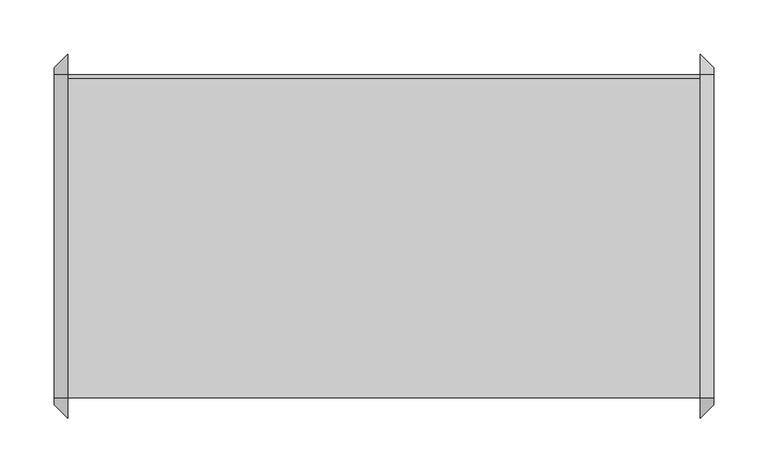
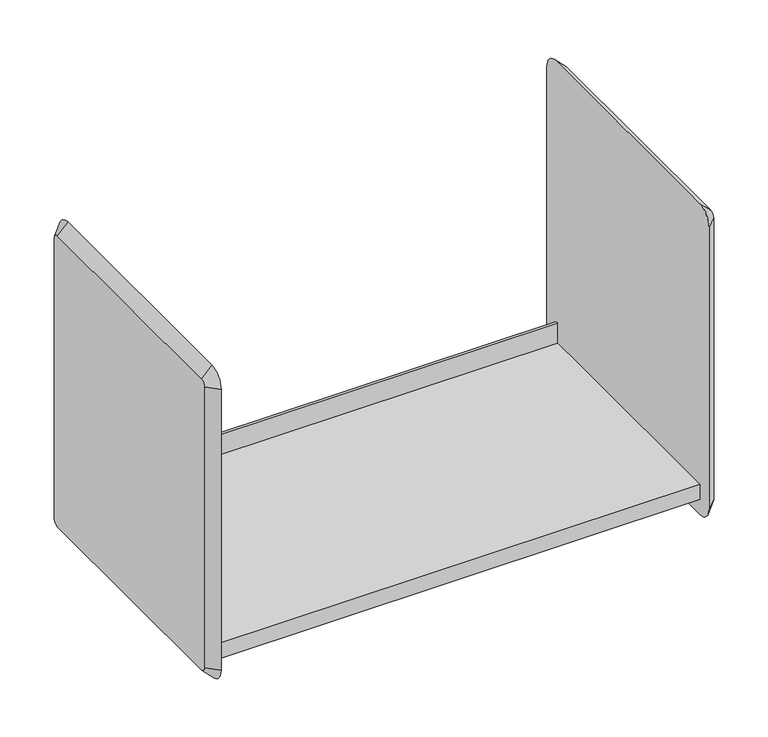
"""IFC4 building model written with IfcOpenShell, lengths in millimetres: furniture geometry, HermanMiller_CoStruc_B-StyleShelf : 15-1/2H x 13D x 24W."""

from ifc_helpers import new_model, si_unit, frame, origin, place, context, project, spatial, polyline, circle_curve, outline, extrude, source, transform, mapped, element, save
from ifc_brep_helpers import plane_surface, revolved_surface, advanced_brep


def furniture_fa600c10(model_context):
    return source(origin(), model_context, "Body", "SolidModel", [
        extrude(outline(polyline([(-136.525, 1219.2), (158.75, 1219.2), (158.75, 1244.6), (161.925, 1244.6), (161.925, 1200.1152313), (-136.525, 1200.1152313), (-136.525, 1219.2)])), frame((-416.0420045, 0.0, 0.0), z_axis=(1.0, 0.0, 0.0), x_axis=(0.0, 1.0, 0.0)), (0.0, 0.0, 1.0), 584.2),
        advanced_brep(
        [(168.1579955, -155.575, 1555.75), (168.1579955, -155.575, 1200.15), (180.8579955, -142.875, 1200.15), (180.8579955, -142.875, 1555.75), (180.8579955, 161.925, 1562.1), (180.8579955, -136.525, 1562.1), (180.8579955, -136.525, 1193.8), (180.8579955, 161.925, 1193.8), (180.8579955, 168.275, 1200.15), (180.8579955, 168.275, 1555.75), (168.1579955, -136.525, 1181.1), (168.1579955, 161.925, 1181.1), (168.1579955, 180.975, 1200.15), (168.1579955, 180.975, 1555.75), (168.1579955, 161.925, 1574.8), (168.1579955, -136.525, 1574.8)],
        [
            (0, 1),
            (1, 2),
            (2, 3),
            (3, 0),
            (4, 5),
            (5, 3, circle_curve(frame((180.8579955, -136.525, 1555.75), z_axis=(1.0, 0.0, -1.0018652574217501e-12), x_axis=(1.0018759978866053e-12, 0.0, 1.0)), 6.35)),
            (2, 6, circle_curve(frame((180.8579955, -136.525, 1200.15), z_axis=(1.0, 0.0, 0.0), x_axis=(0.0, -1.0, 0.0)), 6.35)),
            (6, 7),
            (7, 8, circle_curve(frame((180.8579955, 161.925, 1200.15), z_axis=(1.0, 0.0, 0.0), x_axis=(0.0, 0.0, -1.0)), 6.35)),
            (8, 9),
            (9, 4, circle_curve(frame((180.8579955, 161.925, 1555.75), z_axis=(1.0, 0.0, 0.0), x_axis=(0.0, 1.0, 0.0)), 6.35)),
            (1, 10, circle_curve(frame((168.1579955, -136.525, 1200.15), z_axis=(1.0, 0.0, 0.0), x_axis=(0.0, -1.0, 0.0)), 19.05)),
            (10, 6),
            (10, 11),
            (11, 7),
            (11, 12, circle_curve(frame((168.1579955, 161.925, 1200.15), z_axis=(1.0, 0.0, 0.0), x_axis=(0.0, 0.0, -1.0)), 19.05)),
            (12, 8),
            (12, 13),
            (13, 9),
            (14, 13, circle_curve(frame((168.1579955, 161.925, 1555.75), z_axis=(-1.0, 0.0, 0.0), x_axis=(0.0, 1.0, 0.0)), 19.05)),
            (0, 15, circle_curve(frame((168.1579955, -136.525, 1555.75), z_axis=(-1.0, 0.0, 1.0018652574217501e-12), x_axis=(1.0018759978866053e-12, 0.0, 1.0)), 19.05)),
            (15, 14),
            (15, 5),
            (4, 14),
        ],
        [
            plane_surface(frame((168.1579955, -155.575, 1377.95), z_axis=(0.7071067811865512, -0.7071067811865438, 0.0), x_axis=(0.0, 0.0, -1.0))),
            plane_surface(frame((180.8579955, 12.7, 1377.95), z_axis=(1.0, 0.0, 0.0), x_axis=(0.0, -1.0, 0.0))),
            revolved_surface(polyline([(180.8579955, -142.87500000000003, 1200.15), (168.1579955, -155.575, 1200.15)]), (187.2079955, -136.525, 1200.15), (-1.0, 0.0, 0.0)),
            plane_surface(frame((168.1579955, 12.7, 1181.1), z_axis=(0.7071067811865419, 0.0, -0.7071067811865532), x_axis=(0.0, 1.0, 0.0))),
            revolved_surface(polyline([(180.8579955, 161.925, 1193.8), (168.1579955, 161.925, 1181.1)]), (187.2079955, 161.925, 1200.15), (-1.0, 0.0, 0.0)),
            plane_surface(frame((168.1579955, 180.975, 1377.95), z_axis=(0.7071067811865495, 0.7071067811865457, 0.0), x_axis=(0.0, 0.0, 1.0))),
            plane_surface(frame((168.1579955, 12.7, 1377.95), z_axis=(-1.0, 0.0, 0.0), x_axis=(0.0, -1.0, 0.0))),
            plane_surface(frame((168.1579955, 12.7, 1574.8), z_axis=(0.7071067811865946, 0.0, 0.7071067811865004), x_axis=(0.0, -1.0, 0.0))),
            revolved_surface(polyline([(180.85799550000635, -136.525, 1562.0999999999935), (168.1579955, -136.525, 1574.8)]), (187.2079955, -136.525, 1555.75), (-1.0, 0.0, 1.0018652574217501e-12)),
            revolved_surface(polyline([(180.8579955, 168.27500000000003, 1555.75), (168.1579955, 180.975, 1555.75)]), (187.2079955, 161.925, 1555.75), (-1.0, 0.0, 0.0)),
        ],
        [
            (0, [[1, 2, 3, 4]]),
            (1, [[5, 6, -3, 7, 8, 9, 10, 11]]),
            (2, [[12, 13, -7, -2]]),
            (3, [[14, 15, -8, -13]]),
            (4, [[16, 17, -9, -15]]),
            (5, [[18, 19, -10, -17]]),
            (6, [[20, -18, -16, -14, -12, -1, 21, 22]]),
            (7, [[-22, 23, -5, 24]]),
            (8, [[-21, -4, -6, -23]]),
            (9, [[-20, -24, -11, -19]]),
        ],
    ),
        advanced_brep(
        [(-416.0420045, 180.975, 1555.75), (-416.0420045, 180.975, 1200.15), (-428.7420045, 168.275, 1200.15), (-428.7420045, 168.275, 1555.75), (-428.7420045, -136.525, 1562.1), (-428.7420045, 161.925, 1562.1), (-428.7420045, 161.925, 1193.8), (-428.7420045, -136.525, 1193.8), (-428.7420045, -142.875, 1200.15), (-428.7420045, -142.875, 1555.75), (-416.0420045, 161.925, 1181.1), (-416.0420045, -136.525, 1181.1), (-416.0420045, -155.575, 1200.15), (-416.0420045, -155.575, 1555.75), (-416.0420045, -136.525, 1574.8), (-416.0420045, 161.925, 1574.8)],
        [
            (0, 1),
            (1, 2),
            (2, 3),
            (3, 0),
            (4, 5),
            (5, 3, circle_curve(frame((-428.7420045, 161.925, 1555.75), z_axis=(-1.0, 4.822808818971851e-12, 2.344791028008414e-12), x_axis=(2.3447760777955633e-12, 0.0, 1.0)), 6.35)),
            (2, 6, circle_curve(frame((-428.7420045, 161.925, 1200.15), z_axis=(-1.0, 1.0604850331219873e-12, 7.204903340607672e-12), x_axis=(1.060440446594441e-12, 1.0, 0.0)), 6.35)),
            (6, 7),
            (7, 8, circle_curve(frame((-428.7420045, -136.525, 1200.15), z_axis=(-1.0, 1.4002132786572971e-12, 0.0), x_axis=(0.0, 0.0, -1.0)), 6.35)),
            (8, 9),
            (9, 4, circle_curve(frame((-428.7420045, -136.525, 1555.75), z_axis=(-1.0, 0.0, 3.069544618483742e-12), x_axis=(0.0, -1.0, 0.0)), 6.35)),
            (1, 10, circle_curve(frame((-416.0420045, 161.925, 1200.15), z_axis=(-1.0, 1.0604850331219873e-12, 7.204903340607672e-12), x_axis=(1.060440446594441e-12, 1.0, 0.0)), 19.05)),
            (10, 6),
            (10, 11),
            (11, 7),
            (11, 12, circle_curve(frame((-416.0420045, -136.525, 1200.15), z_axis=(-1.0, 1.4002132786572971e-12, 0.0), x_axis=(0.0, 0.0, -1.0)), 19.05)),
            (12, 8),
            (12, 13),
            (13, 9),
            (14, 13, circle_curve(frame((-416.0420045, -136.525, 1555.75), z_axis=(1.0, 0.0, -3.069544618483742e-12), x_axis=(0.0, -1.0, 0.0)), 19.05)),
            (0, 15, circle_curve(frame((-416.0420045, 161.925, 1555.75), z_axis=(1.0, -4.822808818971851e-12, -2.344791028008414e-12), x_axis=(2.3447760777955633e-12, 0.0, 1.0)), 19.05)),
            (15, 14),
            (15, 5),
            (4, 14),
        ],
        [
            plane_surface(frame((-416.0420045, 180.975, 1377.95), z_axis=(-0.7071067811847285, 0.7071067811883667, 0.0), x_axis=(0.0, 0.0, -1.0))),
            plane_surface(frame((-428.7420045, 12.7, 1377.95), z_axis=(-1.0, 0.0, 0.0), x_axis=(0.0, -1.0, 0.0))),
            revolved_surface(polyline([(-428.7420045, 168.27499999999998, 1200.15), (-416.04200449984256, 180.97500000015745, 1200.15)]), (-435.0920045, 161.925, 1200.15), (1.0, -1.0604850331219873e-12, -7.204903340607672e-12)),
            plane_surface(frame((-416.0420045, 12.7, 1181.1), z_axis=(-0.7071067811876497, 0.0, -0.7071067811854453), x_axis=(0.0, -1.0, 0.0))),
            revolved_surface(polyline([(-428.7420045, -136.525, 1193.8), (-416.04200449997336, -136.525, 1181.0999999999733)]), (-435.0920045, -136.525, 1200.15), (1.0, -1.4002132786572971e-12, 0.0)),
            plane_surface(frame((-416.0420045, -155.575, 1377.95), z_axis=(-0.7071067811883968, -0.7071067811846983, 0.0), x_axis=(0.0, 0.0, 1.0))),
            plane_surface(frame((-416.0420045, 12.7, 1377.95), z_axis=(1.0, 0.0, 0.0), x_axis=(0.0, -1.0, 0.0))),
            plane_surface(frame((-416.0420045, 12.7, 1574.8), z_axis=(-0.7071067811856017, 0.0, 0.7071067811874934), x_axis=(0.0, 1.0, 0.0))),
            revolved_surface(polyline([(-428.74200450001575, 161.925, 1562.0999999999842), (-416.04200449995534, 161.925, 1574.8000000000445)]), (-435.0920045, 161.925, 1555.75), (1.0, -4.822808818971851e-12, -2.344791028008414e-12)),
            revolved_surface(polyline([(-428.7420045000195, -142.8749999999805, 1555.75), (-416.0420045, -155.575, 1555.75)]), (-435.0920045, -136.525, 1555.75), (1.0, 0.0, -3.069544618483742e-12)),
        ],
        [
            (0, [[1, 2, 3, 4]]),
            (1, [[5, 6, -3, 7, 8, 9, 10, 11]]),
            (2, [[12, 13, -7, -2]]),
            (3, [[14, 15, -8, -13]]),
            (4, [[16, 17, -9, -15]]),
            (5, [[18, 19, -10, -17]]),
            (6, [[20, -18, -16, -14, -12, -1, 21, 22]]),
            (7, [[-22, 23, -5, 24]]),
            (8, [[-21, -4, -6, -23]]),
            (9, [[-20, -24, -11, -19]]),
        ],
    ),
    ])


if __name__ == "__main__":
    model = new_model("IFC4")
    model_context = context("Model", 3, world=origin())
    ifc_project = project(units=[si_unit("LENGTHUNIT", "METRE", prefix="MILLI")], contexts=[model_context])
    site = spatial("IfcSite", under=ifc_project)
    building = spatial("IfcBuilding", under=site)
    placement = place(None, origin())
    furniture_shape = furniture_fa600c10(model_context)
    element("IfcFurniture", 1, ObjectType="HermanMiller_CoStruc_B-StyleShelf : 15-1/2H x 13D x 24W", at=placement, inside=building, context=model_context, shape_type="MappedRepresentation", body=[
        mapped(furniture_shape, transform((0.0, 0.0, 0.0), x_axis=(1.0, 0.0, 0.0), y_axis=(0.0, 1.0, 0.0), z_axis=(0.0, 0.0, 1.0))),
    ])
    save(model, "model.ifc")
